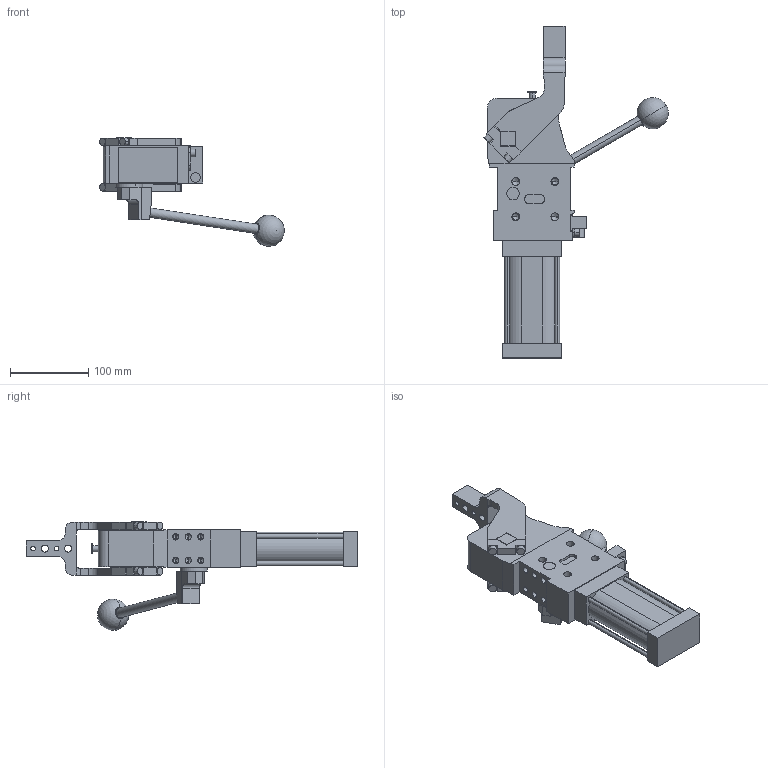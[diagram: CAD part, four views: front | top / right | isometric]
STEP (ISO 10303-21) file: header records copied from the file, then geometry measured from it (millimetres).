
FILE_DESCRIPTION (( 'STEP AP214' ), '1' );
FILE_NAME ('cplm50lbh3csi1g_75.STEP', '2023-01-26T13:56:21', ( '' ), ( '' ), 'SwSTEP 2.0', 'SolidWorks 2022', '' );
FILE_SCHEMA (( 'AUTOMOTIVE_DESIGN' ));
Length unit declared in the file: millimetre
Products named in the file (5): leva_cx_offset_45_cpl50; meccanica_cplm_50; blocchetto_VEP_0; comando_manuale_cplm_50; cplm50lbh3csi1g_75
Assembly tree (4 placements, depth 2):
  cplm50lbh3csi1g_75
    meccanica_cplm_50
    blocchetto_VEP_0
    leva_cx_offset_45_cpl50
    comando_manuale_cplm_50
Bounding box: 235.94 x 424.5 x 139 mm (x, y, z)
Volume: 1472648.4 mm3; surface area: 183543.8 mm2
Topology: 4 solids, 4 shells, 433 faces, 1114 edges, 695 vertices
Faces by surface type: plane 214, cylinder 167, cone 50, sphere 2
Entity records: 14437 total; most frequent: DIRECTION 2293, CARTESIAN_POINT 2271, ORIENTED_EDGE 2126, EDGE_CURVE 1063, AXIS2_PLACEMENT_3D 796, VECTOR 701, LINE 701, VERTEX_POINT 692
